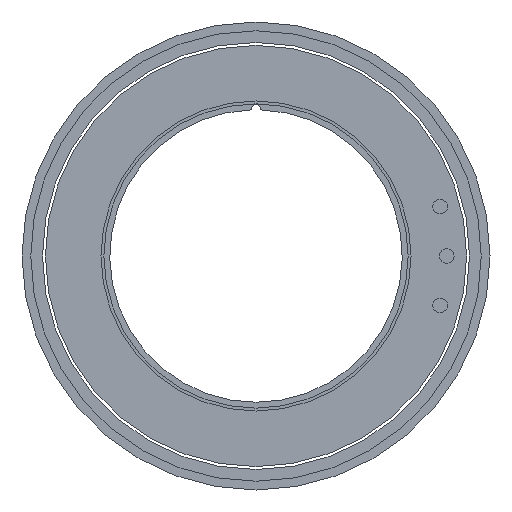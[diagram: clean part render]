
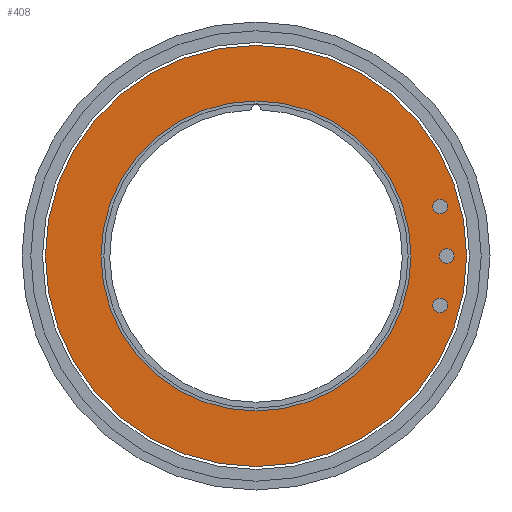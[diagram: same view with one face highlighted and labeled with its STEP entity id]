
A CAD part, front view. The second image highlights one B-rep face of the part: STEP entity #408.
In plain terms, the highlighted planar face has unit normal (0, -1, 0).
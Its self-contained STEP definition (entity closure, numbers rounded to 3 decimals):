
#3 = AXIS2_PLACEMENT_3D ( 'NONE', #328, #695, #517 ) ;
#18 = AXIS2_PLACEMENT_3D ( 'NONE', #185, #276, #460 ) ;
#42 = CARTESIAN_POINT ( 'NONE',  ( 0., -15., 0. ) ) ;
#47 = DIRECTION ( 'NONE',  ( 0., -1., 0. ) ) ;
#62 = DIRECTION ( 'NONE',  ( 0., 0., -1. ) ) ;
#72 = CARTESIAN_POINT ( 'NONE',  ( 0., -15., 36. ) ) ;
#74 = EDGE_CURVE ( 'NONE', #342, #145, #541, .T. ) ;
#83 = VERTEX_POINT ( 'NONE', #367 ) ;
#100 = VERTEX_POINT ( 'NONE', #993 ) ;
#102 = DIRECTION ( 'NONE',  ( 0., 0., -1. ) ) ;
#107 = CARTESIAN_POINT ( 'NONE',  ( 31.487, -15., 8.437 ) ) ;
#110 = DIRECTION ( 'NONE',  ( 0., -1., 0. ) ) ;
#123 = EDGE_CURVE ( 'NONE', #622, #832, #334, .T. ) ;
#132 = CIRCLE ( 'NONE', #981, 26.5 ) ;
#135 = AXIS2_PLACEMENT_3D ( 'NONE', #850, #841, #404 ) ;
#145 = VERTEX_POINT ( 'NONE', #905 ) ;
#171 = AXIS2_PLACEMENT_3D ( 'NONE', #452, #293, #102 ) ;
#172 = VERTEX_POINT ( 'NONE', #400 ) ;
#180 = EDGE_CURVE ( 'NONE', #628, #83, #132, .T. ) ;
#185 = CARTESIAN_POINT ( 'NONE',  ( 0., -15., 0. ) ) ;
#200 = DIRECTION ( 'NONE',  ( 0., 0., 1. ) ) ;
#205 = FACE_BOUND ( 'NONE', #963, .T. ) ;
#212 = DIRECTION ( 'NONE',  ( 0., -1., 0. ) ) ;
#232 = ORIENTED_EDGE ( 'NONE', *, *, #635, .F. ) ;
#270 = CARTESIAN_POINT ( 'NONE',  ( -36., -15., 0. ) ) ;
#276 = DIRECTION ( 'NONE',  ( 0., -1., 0. ) ) ;
#281 = DIRECTION ( 'NONE',  ( 0., 1., 0. ) ) ;
#286 = EDGE_CURVE ( 'NONE', #100, #172, #503, .T. ) ;
#293 = DIRECTION ( 'NONE',  ( 0., -1., 0. ) ) ;
#298 = CIRCLE ( 'NONE', #1091, 1.25 ) ;
#303 = AXIS2_PLACEMENT_3D ( 'NONE', #270, #281, #385 ) ;
#305 = CIRCLE ( 'NONE', #3, 1.25 ) ;
#306 = ORIENTED_EDGE ( 'NONE', *, *, #818, .T. ) ;
#328 = CARTESIAN_POINT ( 'NONE',  ( 31.487, -15., -8.437 ) ) ;
#334 = CIRCLE ( 'NONE', #448, 1.25 ) ;
#342 = VERTEX_POINT ( 'NONE', #699 ) ;
#352 = AXIS2_PLACEMENT_3D ( 'NONE', #370, #110, #723 ) ;
#353 = CIRCLE ( 'NONE', #352, 26.5 ) ;
#362 = CARTESIAN_POINT ( 'NONE',  ( 31.487, -15., -8.437 ) ) ;
#367 = CARTESIAN_POINT ( 'NONE',  ( 0., -15., 26.5 ) ) ;
#370 = CARTESIAN_POINT ( 'NONE',  ( 0., -15., 0. ) ) ;
#380 = FACE_BOUND ( 'NONE', #402, .T. ) ;
#385 = DIRECTION ( 'NONE',  ( 0., 0., 1. ) ) ;
#400 = CARTESIAN_POINT ( 'NONE',  ( 32.597, -15., 1.25 ) ) ;
#402 = EDGE_LOOP ( 'NONE', ( #439, #615 ) ) ;
#404 = DIRECTION ( 'NONE',  ( 0., 0., 1. ) ) ;
#408 = ADVANCED_FACE ( 'NONE', ( #205, #641, #809, #380, #894 ), #813, .F. ) ;
#421 = CARTESIAN_POINT ( 'NONE',  ( 0., -15., -26.5 ) ) ;
#425 = EDGE_CURVE ( 'NONE', #678, #953, #1043, .T. ) ;
#439 = ORIENTED_EDGE ( 'NONE', *, *, #180, .F. ) ;
#448 = AXIS2_PLACEMENT_3D ( 'NONE', #362, #551, #200 ) ;
#452 = CARTESIAN_POINT ( 'NONE',  ( 0., -15., 0. ) ) ;
#454 = ORIENTED_EDGE ( 'NONE', *, *, #425, .T. ) ;
#460 = DIRECTION ( 'NONE',  ( 0., 0., -1. ) ) ;
#492 = CARTESIAN_POINT ( 'NONE',  ( 32.597, -15., 0. ) ) ;
#499 = ORIENTED_EDGE ( 'NONE', *, *, #286, .F. ) ;
#503 = CIRCLE ( 'NONE', #703, 1.25 ) ;
#517 = DIRECTION ( 'NONE',  ( 0., 0., 1. ) ) ;
#541 = CIRCLE ( 'NONE', #983, 1.25 ) ;
#551 = DIRECTION ( 'NONE',  ( 0., -1., 0. ) ) ;
#553 = CARTESIAN_POINT ( 'NONE',  ( 0., -15., -36. ) ) ;
#561 = CIRCLE ( 'NONE', #135, 1.25 ) ;
#575 = ORIENTED_EDGE ( 'NONE', *, *, #74, .F. ) ;
#586 = DIRECTION ( 'NONE',  ( 0., -1., 0. ) ) ;
#611 = ORIENTED_EDGE ( 'NONE', *, *, #766, .F. ) ;
#615 = ORIENTED_EDGE ( 'NONE', *, *, #936, .F. ) ;
#622 = VERTEX_POINT ( 'NONE', #1029 ) ;
#628 = VERTEX_POINT ( 'NONE', #421 ) ;
#635 = EDGE_CURVE ( 'NONE', #172, #100, #561, .T. ) ;
#641 = FACE_BOUND ( 'NONE', #660, .T. ) ;
#660 = EDGE_LOOP ( 'NONE', ( #575, #611 ) ) ;
#678 = VERTEX_POINT ( 'NONE', #72 ) ;
#695 = DIRECTION ( 'NONE',  ( 0., -1., 0. ) ) ;
#699 = CARTESIAN_POINT ( 'NONE',  ( 31.487, -15., 9.687 ) ) ;
#703 = AXIS2_PLACEMENT_3D ( 'NONE', #492, #47, #755 ) ;
#723 = DIRECTION ( 'NONE',  ( 0., 0., -1. ) ) ;
#755 = DIRECTION ( 'NONE',  ( 0., 0., 1. ) ) ;
#757 = EDGE_CURVE ( 'NONE', #832, #622, #305, .T. ) ;
#766 = EDGE_CURVE ( 'NONE', #145, #342, #298, .T. ) ;
#776 = CARTESIAN_POINT ( 'NONE',  ( 31.487, -15., 8.437 ) ) ;
#809 = FACE_BOUND ( 'NONE', #837, .T. ) ;
#813 = PLANE ( 'NONE',  #303 ) ;
#816 = CARTESIAN_POINT ( 'NONE',  ( 31.487, -15., -7.187 ) ) ;
#818 = EDGE_CURVE ( 'NONE', #953, #678, #1093, .T. ) ;
#821 = ORIENTED_EDGE ( 'NONE', *, *, #123, .F. ) ;
#832 = VERTEX_POINT ( 'NONE', #816 ) ;
#837 = EDGE_LOOP ( 'NONE', ( #232, #499 ) ) ;
#841 = DIRECTION ( 'NONE',  ( 0., -1., 0. ) ) ;
#845 = EDGE_LOOP ( 'NONE', ( #306, #454 ) ) ;
#850 = CARTESIAN_POINT ( 'NONE',  ( 32.597, -15., 0. ) ) ;
#894 = FACE_OUTER_BOUND ( 'NONE', #845, .T. ) ;
#905 = CARTESIAN_POINT ( 'NONE',  ( 31.487, -15., 7.187 ) ) ;
#936 = EDGE_CURVE ( 'NONE', #83, #628, #353, .T. ) ;
#953 = VERTEX_POINT ( 'NONE', #553 ) ;
#963 = EDGE_LOOP ( 'NONE', ( #1070, #821 ) ) ;
#965 = DIRECTION ( 'NONE',  ( 0., 0., 1. ) ) ;
#981 = AXIS2_PLACEMENT_3D ( 'NONE', #42, #586, #62 ) ;
#983 = AXIS2_PLACEMENT_3D ( 'NONE', #107, #212, #1080 ) ;
#993 = CARTESIAN_POINT ( 'NONE',  ( 32.597, -15., -1.25 ) ) ;
#1029 = CARTESIAN_POINT ( 'NONE',  ( 31.487, -15., -9.687 ) ) ;
#1043 = CIRCLE ( 'NONE', #171, 36. ) ;
#1070 = ORIENTED_EDGE ( 'NONE', *, *, #757, .F. ) ;
#1080 = DIRECTION ( 'NONE',  ( 0., 0., 1. ) ) ;
#1091 = AXIS2_PLACEMENT_3D ( 'NONE', #776, #1124, #965 ) ;
#1093 = CIRCLE ( 'NONE', #18, 36. ) ;
#1124 = DIRECTION ( 'NONE',  ( 0., -1., 0. ) ) ;
